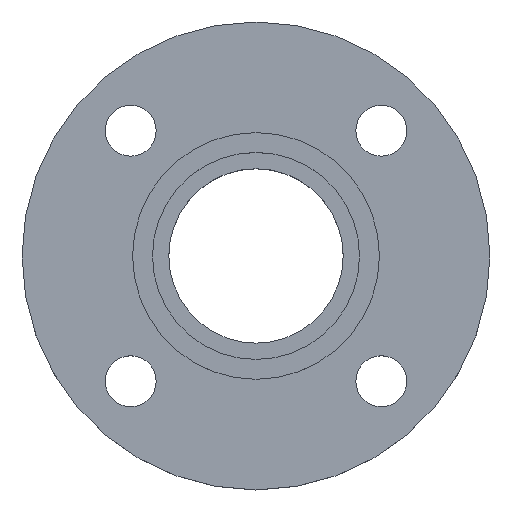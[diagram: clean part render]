
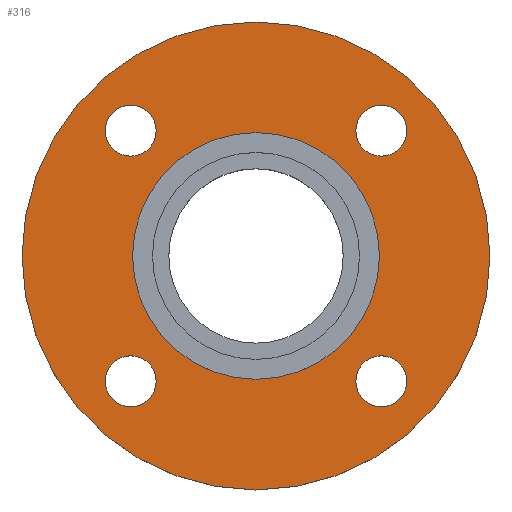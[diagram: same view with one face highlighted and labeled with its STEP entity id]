
A CAD part, top view. The second image highlights one B-rep face of the part: STEP entity #316.
In plain terms, the highlighted planar face has unit normal (0, 0, 1).
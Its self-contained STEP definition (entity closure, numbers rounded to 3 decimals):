
#3 = CIRCLE ( 'NONE', #135, 43.5 ) ;
#9 = DIRECTION ( 'NONE',  ( 1., 0., 0. ) ) ;
#10 = DIRECTION ( 'NONE',  ( 0., 0., -1. ) ) ;
#14 = CARTESIAN_POINT ( 'NONE',  ( -35.194, 44.194, -4.5 ) ) ;
#16 = DIRECTION ( 'NONE',  ( 0., 0., -1. ) ) ;
#17 = CARTESIAN_POINT ( 'NONE',  ( -44.194, 44.194, -4.5 ) ) ;
#19 = CIRCLE ( 'NONE', #21, 9. ) ;
#20 = CARTESIAN_POINT ( 'NONE',  ( -44.194, 44.194, -4.5 ) ) ;
#21 = AXIS2_PLACEMENT_3D ( 'NONE', #682, #683, #684 ) ;
#29 = CIRCLE ( 'NONE', #170, 9. ) ;
#38 = CARTESIAN_POINT ( 'NONE',  ( 43.5, 0., -4.5 ) ) ;
#44 = CARTESIAN_POINT ( 'NONE',  ( -44.194, -44.194, -4.5 ) ) ;
#46 = DIRECTION ( 'NONE',  ( 1., 0., 0. ) ) ;
#48 = DIRECTION ( 'NONE',  ( 0., 0., -1. ) ) ;
#56 = CARTESIAN_POINT ( 'NONE',  ( 0., 0., -4.5 ) ) ;
#61 = DIRECTION ( 'NONE',  ( -1., 0., 0. ) ) ;
#70 = DIRECTION ( 'NONE',  ( -1., 0., 0. ) ) ;
#72 = DIRECTION ( 'NONE',  ( 1., 0., 0. ) ) ;
#73 = EDGE_CURVE ( 'NONE', #622, #518, #331, .T. ) ;
#84 = CIRCLE ( 'NONE', #87, 9. ) ;
#87 = AXIS2_PLACEMENT_3D ( 'NONE', #20, #374, #9 ) ;
#90 = EDGE_CURVE ( 'NONE', #580, #568, #19, .T. ) ;
#103 = CARTESIAN_POINT ( 'NONE',  ( 0., 0., -4.5 ) ) ;
#110 = CIRCLE ( 'NONE', #240, 9. ) ;
#112 = CIRCLE ( 'NONE', #113, 9. ) ;
#113 = AXIS2_PLACEMENT_3D ( 'NONE', #332, #326, #324 ) ;
#124 = CARTESIAN_POINT ( 'NONE',  ( -82.5, 0., -4.5 ) ) ;
#127 = CIRCLE ( 'NONE', #130, 82.5 ) ;
#130 = AXIS2_PLACEMENT_3D ( 'NONE', #272, #268, #265 ) ;
#135 = AXIS2_PLACEMENT_3D ( 'NONE', #103, #391, #70 ) ;
#136 = CIRCLE ( 'NONE', #150, 43.5 ) ;
#142 = DIRECTION ( 'NONE',  ( 1., 0., 0. ) ) ;
#146 = DIRECTION ( 'NONE',  ( 0., 0., -1. ) ) ;
#147 = CARTESIAN_POINT ( 'NONE',  ( 44.194, -44.194, -4.5 ) ) ;
#150 = AXIS2_PLACEMENT_3D ( 'NONE', #56, #10, #61 ) ;
#156 = EDGE_CURVE ( 'NONE', #627, #574, #226, .T. ) ;
#165 = DIRECTION ( 'NONE',  ( 0., 0., -1. ) ) ;
#170 = AXIS2_PLACEMENT_3D ( 'NONE', #44, #48, #46 ) ;
#188 = CIRCLE ( 'NONE', #362, 9. ) ;
#226 = CIRCLE ( 'NONE', #417, 9. ) ;
#227 = CIRCLE ( 'NONE', #381, 9. ) ;
#228 = AXIS2_PLACEMENT_3D ( 'NONE', #309, #312, #317 ) ;
#240 = AXIS2_PLACEMENT_3D ( 'NONE', #455, #165, #398 ) ;
#265 = DIRECTION ( 'NONE',  ( -1., 0., 0. ) ) ;
#268 = DIRECTION ( 'NONE',  ( 0., 0., -1. ) ) ;
#272 = CARTESIAN_POINT ( 'NONE',  ( 0., 0., -4.5 ) ) ;
#277 = CARTESIAN_POINT ( 'NONE',  ( 53.194, 44.194, -4.5 ) ) ;
#280 = FACE_BOUND ( 'NONE', #624, .T. ) ;
#281 = CARTESIAN_POINT ( 'NONE',  ( 82.5, 0., -4.5 ) ) ;
#282 = FACE_BOUND ( 'NONE', #587, .T. ) ;
#283 = FACE_BOUND ( 'NONE', #604, .T. ) ;
#284 = FACE_BOUND ( 'NONE', #602, .T. ) ;
#290 = FACE_BOUND ( 'NONE', #595, .T. ) ;
#307 = FACE_OUTER_BOUND ( 'NONE', #593, .T. ) ;
#308 = PLANE ( 'NONE',  #228 ) ;
#309 = CARTESIAN_POINT ( 'NONE',  ( 43.5, 0., -4.5 ) ) ;
#312 = DIRECTION ( 'NONE',  ( 0., 0., 1. ) ) ;
#316 = ADVANCED_FACE ( 'NONE', ( #280, #282, #283, #284, #290, #307 ), #308, .T. ) ;
#317 = DIRECTION ( 'NONE',  ( 1., 0., 0. ) ) ;
#324 = DIRECTION ( 'NONE',  ( 1., 0., 0. ) ) ;
#326 = DIRECTION ( 'NONE',  ( 0., 0., -1. ) ) ;
#331 = CIRCLE ( 'NONE', #446, 82.5 ) ;
#332 = CARTESIAN_POINT ( 'NONE',  ( -44.194, -44.194, -4.5 ) ) ;
#345 = CARTESIAN_POINT ( 'NONE',  ( 53.194, -44.194, -4.5 ) ) ;
#348 = CARTESIAN_POINT ( 'NONE',  ( -35.194, -44.194, -4.5 ) ) ;
#361 = CARTESIAN_POINT ( 'NONE',  ( -43.5, 0., -4.5 ) ) ;
#362 = AXIS2_PLACEMENT_3D ( 'NONE', #147, #146, #142 ) ;
#366 = CARTESIAN_POINT ( 'NONE',  ( 35.194, 44.194, -4.5 ) ) ;
#369 = CARTESIAN_POINT ( 'NONE',  ( -53.194, -44.194, -4.5 ) ) ;
#374 = DIRECTION ( 'NONE',  ( 0., 0., -1. ) ) ;
#381 = AXIS2_PLACEMENT_3D ( 'NONE', #17, #16, #72 ) ;
#391 = DIRECTION ( 'NONE',  ( 0., 0., -1. ) ) ;
#398 = DIRECTION ( 'NONE',  ( 1., 0., 0. ) ) ;
#400 = CARTESIAN_POINT ( 'NONE',  ( -53.194, 44.194, -4.5 ) ) ;
#415 = EDGE_CURVE ( 'NONE', #561, #575, #136, .T. ) ;
#417 = AXIS2_PLACEMENT_3D ( 'NONE', #721, #723, #724 ) ;
#427 = VERTEX_POINT ( 'NONE', #14 ) ;
#446 = AXIS2_PLACEMENT_3D ( 'NONE', #659, #660, #661 ) ;
#449 = EDGE_CURVE ( 'NONE', #562, #427, #84, .T. ) ;
#455 = CARTESIAN_POINT ( 'NONE',  ( 44.194, 44.194, -4.5 ) ) ;
#465 = EDGE_CURVE ( 'NONE', #579, #572, #29, .T. ) ;
#468 = ORIENTED_EDGE ( 'NONE', *, *, #90, .T. ) ;
#470 = ORIENTED_EDGE ( 'NONE', *, *, #800, .T. ) ;
#472 = ORIENTED_EDGE ( 'NONE', *, *, #465, .T. ) ;
#473 = ORIENTED_EDGE ( 'NONE', *, *, #590, .T. ) ;
#474 = ORIENTED_EDGE ( 'NONE', *, *, #516, .T. ) ;
#475 = ORIENTED_EDGE ( 'NONE', *, *, #449, .T. ) ;
#476 = ORIENTED_EDGE ( 'NONE', *, *, #156, .T. ) ;
#477 = ORIENTED_EDGE ( 'NONE', *, *, #566, .T. ) ;
#479 = ORIENTED_EDGE ( 'NONE', *, *, #515, .T. ) ;
#480 = ORIENTED_EDGE ( 'NONE', *, *, #415, .T. ) ;
#481 = ORIENTED_EDGE ( 'NONE', *, *, #73, .F. ) ;
#483 = ORIENTED_EDGE ( 'NONE', *, *, #636, .F. ) ;
#515 = EDGE_CURVE ( 'NONE', #575, #561, #3, .T. ) ;
#516 = EDGE_CURVE ( 'NONE', #427, #562, #227, .T. ) ;
#518 = VERTEX_POINT ( 'NONE', #124 ) ;
#561 = VERTEX_POINT ( 'NONE', #38 ) ;
#562 = VERTEX_POINT ( 'NONE', #400 ) ;
#566 = EDGE_CURVE ( 'NONE', #574, #627, #110, .T. ) ;
#568 = VERTEX_POINT ( 'NONE', #685 ) ;
#572 = VERTEX_POINT ( 'NONE', #369 ) ;
#574 = VERTEX_POINT ( 'NONE', #366 ) ;
#575 = VERTEX_POINT ( 'NONE', #361 ) ;
#579 = VERTEX_POINT ( 'NONE', #348 ) ;
#580 = VERTEX_POINT ( 'NONE', #345 ) ;
#587 = EDGE_LOOP ( 'NONE', ( #472, #473 ) ) ;
#590 = EDGE_CURVE ( 'NONE', #572, #579, #112, .T. ) ;
#593 = EDGE_LOOP ( 'NONE', ( #481, #483 ) ) ;
#595 = EDGE_LOOP ( 'NONE', ( #479, #480 ) ) ;
#602 = EDGE_LOOP ( 'NONE', ( #476, #477 ) ) ;
#604 = EDGE_LOOP ( 'NONE', ( #474, #475 ) ) ;
#622 = VERTEX_POINT ( 'NONE', #281 ) ;
#624 = EDGE_LOOP ( 'NONE', ( #468, #470 ) ) ;
#627 = VERTEX_POINT ( 'NONE', #277 ) ;
#636 = EDGE_CURVE ( 'NONE', #518, #622, #127, .T. ) ;
#659 = CARTESIAN_POINT ( 'NONE',  ( 0., 0., -4.5 ) ) ;
#660 = DIRECTION ( 'NONE',  ( 0., 0., -1. ) ) ;
#661 = DIRECTION ( 'NONE',  ( -1., 0., 0. ) ) ;
#682 = CARTESIAN_POINT ( 'NONE',  ( 44.194, -44.194, -4.5 ) ) ;
#683 = DIRECTION ( 'NONE',  ( 0., 0., -1. ) ) ;
#684 = DIRECTION ( 'NONE',  ( 1., 0., 0. ) ) ;
#685 = CARTESIAN_POINT ( 'NONE',  ( 35.194, -44.194, -4.5 ) ) ;
#721 = CARTESIAN_POINT ( 'NONE',  ( 44.194, 44.194, -4.5 ) ) ;
#723 = DIRECTION ( 'NONE',  ( 0., 0., -1. ) ) ;
#724 = DIRECTION ( 'NONE',  ( 1., 0., 0. ) ) ;
#800 = EDGE_CURVE ( 'NONE', #568, #580, #188, .T. ) ;
